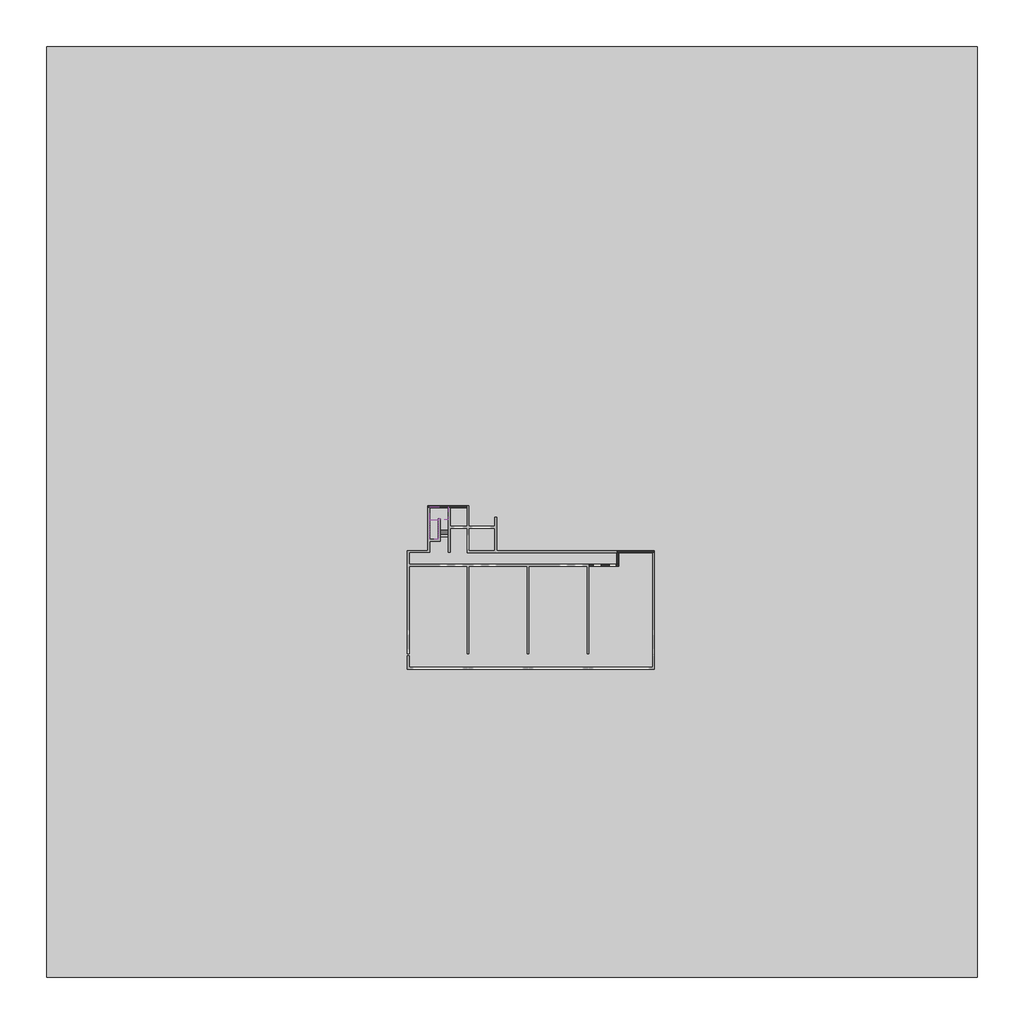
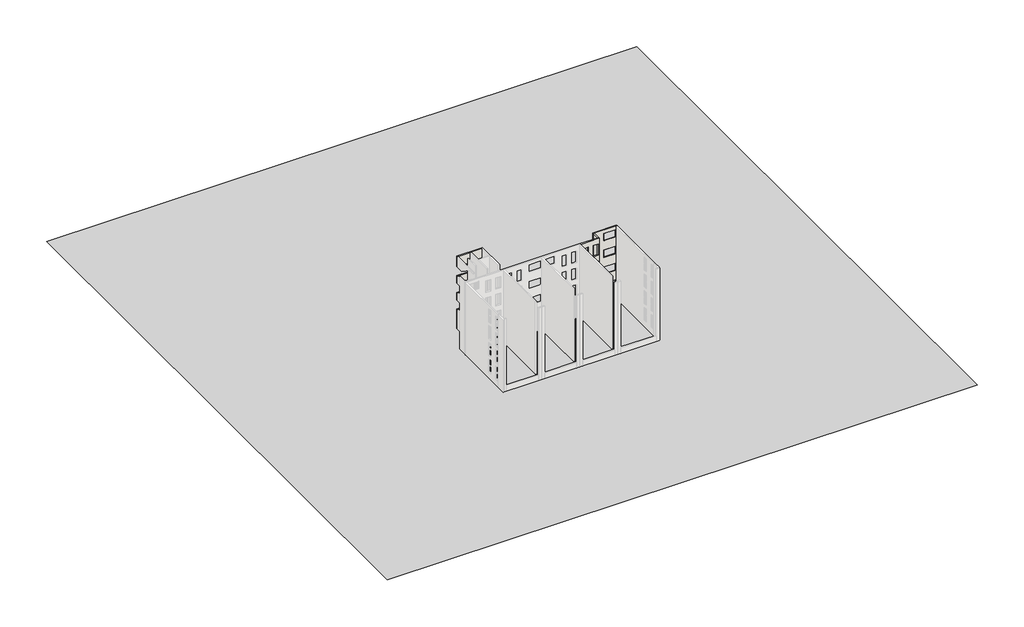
# One storey, part 4 of 4: 4 walls, 2 stair flights, 1 proxy, 1 slab.
"""IFC4 building model written with IfcOpenShell, lengths in millimetres."""

from ifc_helpers import new_model, si_unit, frame, origin, place, context, project, spatial, polyline, outline, extrude, faceted_brep, triangles, element, save

model = new_model("IFC4")

# Units and contexts
model_context = context("Model", 3, world=origin())
ifc_project = project(units=[si_unit("LENGTHUNIT", "METRE", prefix="MILLI")], contexts=[model_context])

# Site, building, storey
site = spatial("IfcSite", under=ifc_project)
building = spatial("IfcBuilding", under=site)
storey = spatial("IfcBuildingStorey", under=building, Name="設計GL", Elevation=0.0)

# Proxy
placement = place(None, origin())
element("IfcBuildingElementProxy", 1, Name="Building Element Proxy", at=placement, inside=storey, context=model_context, shape_type="Tessellation", body=[
    triangles([(-49999.9992188, 49999.9992188, 0.0), (49999.9992188, 49999.9992188, 0.0), (49999.9992188, -49999.9992188, 0.0), (-49999.9992188, -49999.9992188, 0.0)], [[1, 4, 3], [3, 2, 1]], closed=False),
])

# Slab
element("IfcSlab", 2, ObjectType="150 mm 厚さ", at=placement, inside=storey, context=model_context, shape_type="SolidModel", body=[
    faceted_brep([(-7728.7187246, -810.1171638, 2331.7647059), (-6828.7187246, -810.1171638, 2331.7647059), (-6828.7187246, -504.0198032, 2331.7647059), (-6828.7187246, 539.8828362, 2331.7647059), (-8828.7187246, 539.8828362, 2331.7647059), (-8828.7187246, -840.1171638, 2331.7647059), (-8828.7187246, -870.1171638, 2331.7647059), (-7928.7187246, -870.1171638, 2331.7647059), (-7928.7187246, -840.1171638, 2331.7647059), (-7928.7187246, -750.1171638, 2331.7647059), (-7728.7187246, -750.1171638, 2331.7647059), (-7728.7187246, -750.1171638, 2181.7647059), (-7728.7187246, -504.0198032, 2181.7647059), (-7728.7187246, -810.1171638, 1974.0063164), (-7728.7187246, -810.1171638, 2155.2941176), (-6828.7187246, -810.1171638, 2155.2941176), (-6828.7187246, -810.1171638, 1974.0063164), (-6828.7187246, -504.0198032, 2181.7647059), (-6828.7187246, 539.8828362, 2181.7647059), (-8828.7187246, -840.1171638, 2181.7647059), (-8828.7187246, -870.1171638, 2181.7647059), (-7928.7187246, -870.1171638, 2181.7647059), (-7928.7187246, -840.1171638, 2181.7647059), (-7928.7187246, -750.1171638, 2181.7647059), (-8828.7187246, 539.8828362, 2181.7647059)], [[[0, 1, 2, 3, 4, 5, 6, 7, 8, 9, 10]], [[0, 10, 11, 12, 13, 14]], [[1, 15, 16, 17, 18, 3, 2]], [[6, 5, 19, 20]], [[8, 7, 21, 22]], [[9, 8, 22, 23]], [[17, 12, 11, 23, 22, 21, 20, 19, 24, 18]], [[13, 12, 17, 16]], [[4, 3, 18, 24]], [[10, 9, 23, 11]], [[1, 0, 14, 13, 16, 15]], [[5, 4, 24, 19]], [[7, 6, 20, 21]]]),
    extrude(outline(polyline([(-7728.7187246, -840.1171638), (-7728.7187246, -750.1171638), (-7928.7187246, -750.1171638), (-7928.7187246, -840.1171638), (-7928.7187246, -870.1171638), (-8828.7187246, -870.1171638), (-8828.7187246, -840.1171638), (-8828.7187246, 539.8828362), (-6828.7187246, 539.8828362), (-6828.7187246, -840.1171638), (-7728.7187246, -840.1171638)])), frame((0.0, 0.0, 2331.7647059), z_axis=(0.0, 0.0, 1.0), x_axis=(1.0, 0.0, 0.0)), (0.0, 0.0, 1.0), 30.0),
])

# Stair flights
element("IfcStairFlight", 3, ObjectType="30 mm 踏み板 30 mm 蹴込み板", at=placement, inside=storey, context=model_context, shape_type="SolidModel", body=[
    faceted_brep([(-7728.7187246, -2370.1171638, 1096.4705882), (-7728.7187246, -2630.1171638, 1096.4705882), (-6828.7187246, -2630.1171638, 1096.4705882), (-6828.7187246, -2370.1171638, 1096.4705882), (-7728.7187246, -2370.1171638, 950.0), (-7728.7187246, -2630.1171638, 950.0), (-6828.7187246, -2630.1171638, 950.0), (-6828.7187246, -2370.1171638, 950.0), (-7728.7187246, -2110.1171638, 1272.9411765), (-7728.7187246, -2370.1171638, 1272.9411765), (-6828.7187246, -2370.1171638, 1272.9411765), (-6828.7187246, -2110.1171638, 1272.9411765), (-7728.7187246, -2110.1171638, 1091.6533752), (-7728.7187246, -2318.8198032, 950.0), (-6828.7187246, -2318.8198032, 950.0), (-6828.7187246, -2110.1171638, 1091.6533752), (-7728.7187246, -1850.1171638, 1449.4117647), (-7728.7187246, -2110.1171638, 1449.4117647), (-6828.7187246, -2110.1171638, 1449.4117647), (-6828.7187246, -1850.1171638, 1449.4117647), (-7728.7187246, -1850.1171638, 1268.1239634), (-6828.7187246, -1850.1171638, 1268.1239634), (-7728.7187246, -1590.1171638, 1625.8823529), (-7728.7187246, -1850.1171638, 1625.8823529), (-6828.7187246, -1850.1171638, 1625.8823529), (-6828.7187246, -1590.1171638, 1625.8823529), (-7728.7187246, -1590.1171638, 1444.5945517), (-6828.7187246, -1590.1171638, 1444.5945517), (-7728.7187246, -1330.1171638, 1802.3529412), (-7728.7187246, -1590.1171638, 1802.3529412), (-6828.7187246, -1590.1171638, 1802.3529412), (-6828.7187246, -1330.1171638, 1802.3529412), (-7728.7187246, -1330.1171638, 1621.0651399), (-6828.7187246, -1330.1171638, 1621.0651399), (-7728.7187246, -1070.1171638, 1978.8235294), (-7728.7187246, -1330.1171638, 1978.8235294), (-6828.7187246, -1330.1171638, 1978.8235294), (-6828.7187246, -1070.1171638, 1978.8235294), (-7728.7187246, -1070.1171638, 1797.5357281), (-6828.7187246, -1070.1171638, 1797.5357281), (-7728.7187246, -810.1171638, 2155.2941176), (-7728.7187246, -840.1171638, 2155.2941176), (-7728.7187246, -1070.1171638, 2155.2941176), (-6828.7187246, -1070.1171638, 2155.2941176), (-6828.7187246, -840.1171638, 2155.2941176), (-6828.7187246, -810.1171638, 2155.2941176), (-7728.7187246, -810.1171638, 1974.0063164), (-7728.7187246, -840.1171638, 1953.6443254), (-6828.7187246, -840.1171638, 1953.6443254), (-6828.7187246, -810.1171638, 1974.0063164)], [[[0, 1, 2, 3]], [[1, 0, 4, 5]], [[2, 1, 5, 6]], [[3, 2, 6, 7]], [[8, 9, 10, 11]], [[4, 0, 9, 8, 12, 13]], [[0, 3, 10, 9]], [[3, 7, 14, 15, 11, 10]], [[16, 17, 18, 19]], [[17, 16, 20, 12, 8]], [[8, 11, 18, 17]], [[19, 18, 11, 15, 21]], [[22, 23, 24, 25]], [[23, 22, 26, 20, 16]], [[16, 19, 24, 23]], [[25, 24, 19, 21, 27]], [[28, 29, 30, 31]], [[29, 28, 32, 26, 22]], [[22, 25, 30, 29]], [[31, 30, 25, 27, 33]], [[34, 35, 36, 37]], [[35, 34, 38, 32, 28]], [[28, 31, 36, 35]], [[37, 36, 31, 33, 39]], [[40, 41, 42, 43, 44, 45]], [[41, 40, 46, 47]], [[34, 37, 43, 42]], [[44, 43, 37, 39, 48]], [[40, 45, 49, 46]], [[5, 4, 13, 14, 7, 6]], [[14, 13, 12, 20, 26, 32, 38, 47, 46, 49, 48, 39, 33, 27, 21, 15]], [[45, 44, 48, 49]], [[42, 41, 47, 38, 34]]]),
    extrude(outline(polyline([(-7728.7187246, -2370.1171638), (-6828.7187246, -2370.1171638), (-6828.7187246, -2660.1171638), (-7728.7187246, -2660.1171638), (-7728.7187246, -2370.1171638)])), frame((0.0, 0.0, 1096.4705882), z_axis=(0.0, 0.0, 1.0), x_axis=(1.0, 0.0, 0.0)), (0.0, 0.0, 1.0), 30.0),
    extrude(outline(polyline([(-6828.7187246, -2630.1171638), (-6828.7187246, -2660.1171638), (-7728.7187246, -2660.1171638), (-7728.7187246, -2630.1171638), (-6828.7187246, -2630.1171638)])), frame((0.0, 0.0, 950.0), z_axis=(0.0, 0.0, 1.0), x_axis=(1.0, 0.0, 0.0)), (0.0, 0.0, 1.0), 146.4705882),
    extrude(outline(polyline([(-7728.7187246, -2110.1171638), (-6828.7187246, -2110.1171638), (-6828.7187246, -2400.1171638), (-7728.7187246, -2400.1171638), (-7728.7187246, -2110.1171638)])), frame((0.0, 0.0, 1272.9411765), z_axis=(0.0, 0.0, 1.0), x_axis=(1.0, 0.0, 0.0)), (0.0, 0.0, 1.0), 30.0),
    extrude(outline(polyline([(-6828.7187246, -2370.1171638), (-6828.7187246, -2400.1171638), (-7728.7187246, -2400.1171638), (-7728.7187246, -2370.1171638), (-6828.7187246, -2370.1171638)])), frame((0.0, 0.0, 1126.4705882), z_axis=(0.0, 0.0, 1.0), x_axis=(1.0, 0.0, 0.0)), (0.0, 0.0, 1.0), 146.4705882),
    extrude(outline(polyline([(-7728.7187246, -1850.1171638), (-6828.7187246, -1850.1171638), (-6828.7187246, -2140.1171638), (-7728.7187246, -2140.1171638), (-7728.7187246, -1850.1171638)])), frame((0.0, 0.0, 1449.4117647), z_axis=(0.0, 0.0, 1.0), x_axis=(1.0, 0.0, 0.0)), (0.0, 0.0, 1.0), 30.0),
    extrude(outline(polyline([(-6828.7187246, -2110.1171638), (-6828.7187246, -2140.1171638), (-7728.7187246, -2140.1171638), (-7728.7187246, -2110.1171638), (-6828.7187246, -2110.1171638)])), frame((0.0, 0.0, 1302.9411765), z_axis=(0.0, 0.0, 1.0), x_axis=(1.0, 0.0, 0.0)), (0.0, 0.0, 1.0), 146.4705882),
    extrude(outline(polyline([(-7728.7187246, -1590.1171638), (-6828.7187246, -1590.1171638), (-6828.7187246, -1880.1171638), (-7728.7187246, -1880.1171638), (-7728.7187246, -1590.1171638)])), frame((0.0, 0.0, 1625.8823529), z_axis=(0.0, 0.0, 1.0), x_axis=(1.0, 0.0, 0.0)), (0.0, 0.0, 1.0), 30.0),
    extrude(outline(polyline([(-6828.7187246, -1850.1171638), (-6828.7187246, -1880.1171638), (-7728.7187246, -1880.1171638), (-7728.7187246, -1850.1171638), (-6828.7187246, -1850.1171638)])), frame((0.0, 0.0, 1479.4117647), z_axis=(0.0, 0.0, 1.0), x_axis=(1.0, 0.0, 0.0)), (0.0, 0.0, 1.0), 146.4705882),
    extrude(outline(polyline([(-7728.7187246, -1330.1171638), (-6828.7187246, -1330.1171638), (-6828.7187246, -1620.1171638), (-7728.7187246, -1620.1171638), (-7728.7187246, -1330.1171638)])), frame((0.0, 0.0, 1802.3529412), z_axis=(0.0, 0.0, 1.0), x_axis=(1.0, 0.0, 0.0)), (0.0, 0.0, 1.0), 30.0),
    extrude(outline(polyline([(-6828.7187246, -1590.1171638), (-6828.7187246, -1620.1171638), (-7728.7187246, -1620.1171638), (-7728.7187246, -1590.1171638), (-6828.7187246, -1590.1171638)])), frame((0.0, 0.0, 1655.8823529), z_axis=(0.0, 0.0, 1.0), x_axis=(1.0, 0.0, 0.0)), (0.0, 0.0, 1.0), 146.4705882),
    extrude(outline(polyline([(-7728.7187246, -1070.1171638), (-6828.7187246, -1070.1171638), (-6828.7187246, -1360.1171638), (-7728.7187246, -1360.1171638), (-7728.7187246, -1070.1171638)])), frame((0.0, 0.0, 1978.8235294), z_axis=(0.0, 0.0, 1.0), x_axis=(1.0, 0.0, 0.0)), (0.0, 0.0, 1.0), 30.0),
    extrude(outline(polyline([(-6828.7187246, -1330.1171638), (-6828.7187246, -1360.1171638), (-7728.7187246, -1360.1171638), (-7728.7187246, -1330.1171638), (-6828.7187246, -1330.1171638)])), frame((0.0, 0.0, 1832.3529412), z_axis=(0.0, 0.0, 1.0), x_axis=(1.0, 0.0, 0.0)), (0.0, 0.0, 1.0), 146.4705882),
    extrude(outline(polyline([(-7728.7187246, -810.1171638), (-6828.7187246, -810.1171638), (-6828.7187246, -840.1171638), (-6828.7187246, -1100.1171638), (-7728.7187246, -1100.1171638), (-7728.7187246, -840.1171638), (-7728.7187246, -810.1171638)])), frame((0.0, 0.0, 2155.2941176), z_axis=(0.0, 0.0, 1.0), x_axis=(1.0, 0.0, 0.0)), (0.0, 0.0, 1.0), 30.0),
    extrude(outline(polyline([(-6828.7187246, -1070.1171638), (-6828.7187246, -1100.1171638), (-7728.7187246, -1100.1171638), (-7728.7187246, -1070.1171638), (-6828.7187246, -1070.1171638)])), frame((0.0, 0.0, 2008.8235294), z_axis=(0.0, 0.0, 1.0), x_axis=(1.0, 0.0, 0.0)), (0.0, 0.0, 1.0), 146.4705882),
    extrude(outline(polyline([(-6828.7187246, -810.1171638), (-6828.7187246, -840.1171638), (-7728.7187246, -840.1171638), (-7728.7187246, -810.1171638), (-6828.7187246, -810.1171638)])), frame((0.0, 0.0, 2185.2941176), z_axis=(0.0, 0.0, 1.0), x_axis=(1.0, 0.0, 0.0)), (0.0, 0.0, 1.0), 146.4705882),
])
element("IfcStairFlight", 4, ObjectType="30 mm 踏み板 30 mm 蹴込み板", at=placement, inside=storey, context=model_context, shape_type="SolidModel", body=[
    faceted_brep([(-7928.7187246, -870.1171638, 2508.2352941), (-8828.7187246, -870.1171638, 2508.2352941), (-8828.7187246, -916.2145243, 2508.2352941), (-8828.7187246, -1130.1171638, 2508.2352941), (-7928.7187246, -1130.1171638, 2508.2352941), (-7928.7187246, -916.2145243, 2508.2352941), (-7928.7187246, -1130.1171638, 2326.9474929), (-7928.7187246, -916.2145243, 2181.7647059), (-7928.7187246, -870.1171638, 2181.7647059), (-7928.7187246, -870.1171638, 2331.7647059), (-8828.7187246, -870.1171638, 2181.7647059), (-8828.7187246, -870.1171638, 2331.7647059), (-8828.7187246, -916.2145243, 2181.7647059), (-8828.7187246, -1130.1171638, 2326.9474929), (-7928.7187246, -1390.1171638, 2684.7058824), (-7928.7187246, -1130.1171638, 2684.7058824), (-8828.7187246, -1130.1171638, 2684.7058824), (-8828.7187246, -1390.1171638, 2684.7058824), (-7928.7187246, -1390.1171638, 2503.4180811), (-8828.7187246, -1390.1171638, 2503.4180811), (-7928.7187246, -1650.1171638, 2861.1764706), (-7928.7187246, -1390.1171638, 2861.1764706), (-8828.7187246, -1390.1171638, 2861.1764706), (-8828.7187246, -1650.1171638, 2861.1764706), (-7928.7187246, -1650.1171638, 2679.8886693), (-8828.7187246, -1650.1171638, 2679.8886693), (-7928.7187246, -1910.1171638, 3037.6470588), (-7928.7187246, -1650.1171638, 3037.6470588), (-8828.7187246, -1650.1171638, 3037.6470588), (-8828.7187246, -1910.1171638, 3037.6470588), (-7928.7187246, -1910.1171638, 2856.3592576), (-8828.7187246, -1910.1171638, 2856.3592576), (-7928.7187246, -2170.1171638, 3214.1176471), (-7928.7187246, -1910.1171638, 3214.1176471), (-8828.7187246, -1910.1171638, 3214.1176471), (-8828.7187246, -2170.1171638, 3214.1176471), (-7928.7187246, -2170.1171638, 3032.8298458), (-8828.7187246, -2170.1171638, 3032.8298458), (-7928.7187246, -2430.1171638, 3390.5882353), (-7928.7187246, -2170.1171638, 3390.5882353), (-8828.7187246, -2170.1171638, 3390.5882353), (-8828.7187246, -2430.1171638, 3390.5882353), (-7928.7187246, -2430.1171638, 3209.300434), (-8828.7187246, -2430.1171638, 3209.300434), (-7928.7187246, -2690.1171638, 3567.0588235), (-7928.7187246, -2430.1171638, 3567.0588235), (-8828.7187246, -2430.1171638, 3567.0588235), (-8828.7187246, -2690.1171638, 3567.0588235), (-7928.7187246, -2690.1171638, 3385.7710223), (-8828.7187246, -2690.1171638, 3385.7710223), (-7928.7187246, -2950.1171638, 3743.5294118), (-7928.7187246, -2690.1171638, 3743.5294118), (-8828.7187246, -2690.1171638, 3743.5294118), (-8828.7187246, -2950.1171638, 3743.5294118), (-7928.7187246, -2950.1171638, 3562.2416105), (-8828.7187246, -2950.1171638, 3562.2416105)], [[[0, 1, 2, 3, 4, 5]], [[4, 6, 7, 8, 9, 0, 5]], [[1, 0, 9, 8, 10, 11]], [[1, 11, 10, 12, 13, 3, 2]], [[14, 15, 16, 17]], [[15, 14, 18, 6, 4]], [[16, 15, 4, 3]], [[17, 16, 3, 13, 19]], [[20, 21, 22, 23]], [[21, 20, 24, 18, 14]], [[22, 21, 14, 17]], [[23, 22, 17, 19, 25]], [[26, 27, 28, 29]], [[27, 26, 30, 24, 20]], [[28, 27, 20, 23]], [[29, 28, 23, 25, 31]], [[32, 33, 34, 35]], [[33, 32, 36, 30, 26]], [[34, 33, 26, 29]], [[35, 34, 29, 31, 37]], [[38, 39, 40, 41]], [[39, 38, 42, 36, 32]], [[40, 39, 32, 35]], [[41, 40, 35, 37, 43]], [[44, 45, 46, 47]], [[45, 44, 48, 42, 38]], [[46, 45, 38, 41]], [[47, 46, 41, 43, 49]], [[50, 51, 52, 53]], [[51, 50, 54, 48, 44]], [[52, 51, 44, 47]], [[53, 52, 47, 49, 55]], [[50, 53, 55, 54]], [[12, 7, 6, 18, 24, 30, 36, 42, 48, 54, 55, 49, 43, 37, 31, 25, 19, 13]], [[7, 12, 10, 8]]]),
    extrude(outline(polyline([(-7928.7187246, -1130.1171638), (-8828.7187246, -1130.1171638), (-8828.7187246, -840.1171638), (-7928.7187246, -840.1171638), (-7928.7187246, -1130.1171638)])), frame((0.0, 0.0, 2508.2352941), z_axis=(0.0, 0.0, 1.0), x_axis=(1.0, 0.0, 0.0)), (0.0, 0.0, 1.0), 30.0),
    extrude(outline(polyline([(-8828.7187246, -870.1171638), (-8828.7187246, -840.1171638), (-7928.7187246, -840.1171638), (-7928.7187246, -870.1171638), (-8828.7187246, -870.1171638)])), frame((0.0, 0.0, 2361.7647059), z_axis=(0.0, 0.0, 1.0), x_axis=(1.0, 0.0, 0.0)), (0.0, 0.0, 1.0), 146.4705882),
    extrude(outline(polyline([(-7928.7187246, -1390.1171638), (-8828.7187246, -1390.1171638), (-8828.7187246, -1100.1171638), (-7928.7187246, -1100.1171638), (-7928.7187246, -1390.1171638)])), frame((0.0, 0.0, 2684.7058824), z_axis=(0.0, 0.0, 1.0), x_axis=(1.0, 0.0, 0.0)), (0.0, 0.0, 1.0), 30.0),
    extrude(outline(polyline([(-8828.7187246, -1130.1171638), (-8828.7187246, -1100.1171638), (-7928.7187246, -1100.1171638), (-7928.7187246, -1130.1171638), (-8828.7187246, -1130.1171638)])), frame((0.0, 0.0, 2538.2352941), z_axis=(0.0, 0.0, 1.0), x_axis=(1.0, 0.0, 0.0)), (0.0, 0.0, 1.0), 146.4705882),
    extrude(outline(polyline([(-7928.7187246, -1650.1171638), (-8828.7187246, -1650.1171638), (-8828.7187246, -1360.1171638), (-7928.7187246, -1360.1171638), (-7928.7187246, -1650.1171638)])), frame((0.0, 0.0, 2861.1764706), z_axis=(0.0, 0.0, 1.0), x_axis=(1.0, 0.0, 0.0)), (0.0, 0.0, 1.0), 30.0),
    extrude(outline(polyline([(-8828.7187246, -1390.1171638), (-8828.7187246, -1360.1171638), (-7928.7187246, -1360.1171638), (-7928.7187246, -1390.1171638), (-8828.7187246, -1390.1171638)])), frame((0.0, 0.0, 2714.7058824), z_axis=(0.0, 0.0, 1.0), x_axis=(1.0, 0.0, 0.0)), (0.0, 0.0, 1.0), 146.4705882),
    extrude(outline(polyline([(-7928.7187246, -1910.1171638), (-8828.7187246, -1910.1171638), (-8828.7187246, -1620.1171638), (-7928.7187246, -1620.1171638), (-7928.7187246, -1910.1171638)])), frame((0.0, 0.0, 3037.6470588), z_axis=(0.0, 0.0, 1.0), x_axis=(1.0, 0.0, 0.0)), (0.0, 0.0, 1.0), 30.0),
    extrude(outline(polyline([(-8828.7187246, -1650.1171638), (-8828.7187246, -1620.1171638), (-7928.7187246, -1620.1171638), (-7928.7187246, -1650.1171638), (-8828.7187246, -1650.1171638)])), frame((0.0, 0.0, 2891.1764706), z_axis=(0.0, 0.0, 1.0), x_axis=(1.0, 0.0, 0.0)), (0.0, 0.0, 1.0), 146.4705882),
    extrude(outline(polyline([(-7928.7187246, -2170.1171638), (-8828.7187246, -2170.1171638), (-8828.7187246, -1880.1171638), (-7928.7187246, -1880.1171638), (-7928.7187246, -2170.1171638)])), frame((0.0, 0.0, 3214.1176471), z_axis=(0.0, 0.0, 1.0), x_axis=(1.0, 0.0, 0.0)), (0.0, 0.0, 1.0), 30.0),
    extrude(outline(polyline([(-8828.7187246, -1910.1171638), (-8828.7187246, -1880.1171638), (-7928.7187246, -1880.1171638), (-7928.7187246, -1910.1171638), (-8828.7187246, -1910.1171638)])), frame((0.0, 0.0, 3067.6470588), z_axis=(0.0, 0.0, 1.0), x_axis=(1.0, 0.0, 0.0)), (0.0, 0.0, 1.0), 146.4705882),
    extrude(outline(polyline([(-7928.7187246, -2430.1171638), (-8828.7187246, -2430.1171638), (-8828.7187246, -2140.1171638), (-7928.7187246, -2140.1171638), (-7928.7187246, -2430.1171638)])), frame((0.0, 0.0, 3390.5882353), z_axis=(0.0, 0.0, 1.0), x_axis=(1.0, 0.0, 0.0)), (0.0, 0.0, 1.0), 30.0),
    extrude(outline(polyline([(-8828.7187246, -2170.1171638), (-8828.7187246, -2140.1171638), (-7928.7187246, -2140.1171638), (-7928.7187246, -2170.1171638), (-8828.7187246, -2170.1171638)])), frame((0.0, 0.0, 3244.1176471), z_axis=(0.0, 0.0, 1.0), x_axis=(1.0, 0.0, 0.0)), (0.0, 0.0, 1.0), 146.4705882),
    extrude(outline(polyline([(-7928.7187246, -2690.1171638), (-8828.7187246, -2690.1171638), (-8828.7187246, -2400.1171638), (-7928.7187246, -2400.1171638), (-7928.7187246, -2690.1171638)])), frame((0.0, 0.0, 3567.0588235), z_axis=(0.0, 0.0, 1.0), x_axis=(1.0, 0.0, 0.0)), (0.0, 0.0, 1.0), 30.0),
    extrude(outline(polyline([(-8828.7187246, -2430.1171638), (-8828.7187246, -2400.1171638), (-7928.7187246, -2400.1171638), (-7928.7187246, -2430.1171638), (-8828.7187246, -2430.1171638)])), frame((0.0, 0.0, 3420.5882353), z_axis=(0.0, 0.0, 1.0), x_axis=(1.0, 0.0, 0.0)), (0.0, 0.0, 1.0), 146.4705882),
    extrude(outline(polyline([(-7928.7187246, -2950.1171638), (-8828.7187246, -2950.1171638), (-8828.7187246, -2660.1171638), (-7928.7187246, -2660.1171638), (-7928.7187246, -2950.1171638)])), frame((0.0, 0.0, 3743.5294118), z_axis=(0.0, 0.0, 1.0), x_axis=(1.0, 0.0, 0.0)), (0.0, 0.0, 1.0), 30.0),
    extrude(outline(polyline([(-8828.7187246, -2690.1171638), (-8828.7187246, -2660.1171638), (-7928.7187246, -2660.1171638), (-7928.7187246, -2690.1171638), (-8828.7187246, -2690.1171638)])), frame((0.0, 0.0, 3597.0588235), z_axis=(0.0, 0.0, 1.0), x_axis=(1.0, 0.0, 0.0)), (0.0, 0.0, 1.0), 146.4705882),
    extrude(outline(polyline([(-8828.7187246, -2950.1171638), (-8828.7187246, -2920.1171638), (-7928.7187246, -2920.1171638), (-7928.7187246, -2950.1171638), (-8828.7187246, -2950.1171638)])), frame((0.0, 0.0, 3773.5294118), z_axis=(0.0, 0.0, 1.0), x_axis=(1.0, 0.0, 0.0)), (0.0, 0.0, 1.0), 146.4705882),
])

# Walls
element("IfcWall", 5, ObjectType="外壁(R)RC200", at=placement, inside=storey, context=model_context, shape_type="Brep", body=[
    faceted_brep([(11247.5312754, -4376.3671638, 13000.0), (11247.5312754, -4376.3671638, -1200.0), (11447.5312754, -4376.3671638, -1200.0), (15095.0312754, -4376.3671638, -1200.0), (15295.0312754, -4376.3671638, -1200.0), (15295.0312754, -4376.3671638, 13000.0), (15095.0312754, -4376.3671638, 13000.0), (11447.5312754, -4376.3671638, 13000.0), (15111.2812754, -4376.3671638, 3385.0), (15111.2812754, -4376.3671638, 2115.0), (13031.2812754, -4376.3671638, 2115.0), (13031.2812754, -4376.3671638, 3385.0), (15111.2812754, -4376.3671638, 6385.0), (15111.2812754, -4376.3671638, 5115.0), (13031.2812754, -4376.3671638, 5115.0), (13031.2812754, -4376.3671638, 6385.0), (15111.2812754, -4376.3671638, 9385.0), (15111.2812754, -4376.3671638, 8115.0), (13031.2812754, -4376.3671638, 8115.0), (13031.2812754, -4376.3671638, 9385.0), (15111.2812754, -4376.3671638, 12385.0), (15111.2812754, -4376.3671638, 11115.0), (13031.2812754, -4376.3671638, 11115.0), (13031.2812754, -4376.3671638, 12385.0), (11247.5312754, -4176.3671638, -1200.0), (11247.5312754, -4176.3671638, 2100.0), (11247.5312754, -4176.3671638, 3800.0), (11247.5312754, -4176.3671638, 5100.0), (11247.5312754, -4176.3671638, 6800.0), (11247.5312754, -4176.3671638, 8100.0), (11247.5312754, -4176.3671638, 9800.0), (11247.5312754, -4176.3671638, 11100.0), (11247.5312754, -4176.3671638, 13000.0), (15295.0312754, -4176.3671638, 13000.0), (15295.0312754, -4176.3671638, -1200.0), (13061.2812754, -4176.3671638, 2025.0), (15081.2812754, -4176.3671638, 2025.0), (15081.2812754, -4176.3671638, 3360.0), (13061.2812754, -4176.3671638, 3360.0), (13061.2812754, -4176.3671638, 5025.0), (15081.2812754, -4176.3671638, 5025.0), (15081.2812754, -4176.3671638, 6360.0), (13061.2812754, -4176.3671638, 6360.0), (13061.2812754, -4176.3671638, 8025.0), (15081.2812754, -4176.3671638, 8025.0), (15081.2812754, -4176.3671638, 9360.0), (13061.2812754, -4176.3671638, 9360.0), (13061.2812754, -4176.3671638, 11025.0), (15081.2812754, -4176.3671638, 11025.0), (15081.2812754, -4176.3671638, 12360.0), (13061.2812754, -4176.3671638, 12360.0), (15111.2812754, -4306.3671638, 3385.0), (15111.2812754, -4306.3671638, 2115.0), (13031.2812754, -4306.3671638, 2115.0), (13031.2812754, -4306.3671638, 3385.0), (15101.2812754, -4306.3671638, 2115.0), (13041.2812754, -4306.3671638, 2115.0), (13041.2812754, -4306.3671638, 3380.0), (15101.2812754, -4306.3671638, 3380.0), (15101.2812754, -4236.3671638, 3380.0), (15101.2812754, -4236.3671638, 2034.2307692), (15101.2812754, -4306.3671638, 2045.0), (13041.2812754, -4306.3671638, 2045.0), (13041.2812754, -4236.3671638, 2034.2307692), (13041.2812754, -4236.3671638, 3380.0), (15081.2812754, -4236.3671638, 2034.2307692), (13061.2812754, -4236.3671638, 2034.2307692), (13061.2812754, -4236.3671638, 3360.0), (15081.2812754, -4236.3671638, 3360.0), (15111.2812754, -4306.3671638, 6385.0), (15111.2812754, -4306.3671638, 5115.0), (13031.2812754, -4306.3671638, 5115.0), (13031.2812754, -4306.3671638, 6385.0), (15101.2812754, -4306.3671638, 5115.0), (13041.2812754, -4306.3671638, 5115.0), (13041.2812754, -4306.3671638, 6380.0), (15101.2812754, -4306.3671638, 6380.0), (15101.2812754, -4236.3671638, 6380.0), (15101.2812754, -4236.3671638, 5034.2307692), (15101.2812754, -4306.3671638, 5045.0), (13041.2812754, -4306.3671638, 5045.0), (13041.2812754, -4236.3671638, 5034.2307692), (13041.2812754, -4236.3671638, 6380.0), (15081.2812754, -4236.3671638, 5034.2307692), (13061.2812754, -4236.3671638, 5034.2307692), (13061.2812754, -4236.3671638, 6360.0), (15081.2812754, -4236.3671638, 6360.0), (15111.2812754, -4306.3671638, 9385.0), (15111.2812754, -4306.3671638, 8115.0), (13031.2812754, -4306.3671638, 8115.0), (13031.2812754, -4306.3671638, 9385.0), (15101.2812754, -4306.3671638, 8115.0), (13041.2812754, -4306.3671638, 8115.0), (13041.2812754, -4306.3671638, 9380.0), (15101.2812754, -4306.3671638, 9380.0), (15101.2812754, -4236.3671638, 9380.0), (15101.2812754, -4236.3671638, 8034.2307692), (15101.2812754, -4306.3671638, 8045.0), (13041.2812754, -4306.3671638, 8045.0), (13041.2812754, -4236.3671638, 8034.2307692), (13041.2812754, -4236.3671638, 9380.0), (15081.2812754, -4236.3671638, 8034.2307692), (13061.2812754, -4236.3671638, 8034.2307692), (13061.2812754, -4236.3671638, 9360.0), (15081.2812754, -4236.3671638, 9360.0), (15111.2812754, -4306.3671638, 12385.0), (15111.2812754, -4306.3671638, 11115.0), (13031.2812754, -4306.3671638, 11115.0), (13031.2812754, -4306.3671638, 12385.0), (15101.2812754, -4306.3671638, 11115.0), (13041.2812754, -4306.3671638, 11115.0), (13041.2812754, -4306.3671638, 12380.0), (15101.2812754, -4306.3671638, 12380.0), (15101.2812754, -4236.3671638, 12380.0), (15101.2812754, -4236.3671638, 11034.2307692), (15101.2812754, -4306.3671638, 11045.0), (13041.2812754, -4306.3671638, 11045.0), (13041.2812754, -4236.3671638, 11034.2307692), (13041.2812754, -4236.3671638, 12380.0), (15081.2812754, -4236.3671638, 11034.2307692), (13061.2812754, -4236.3671638, 11034.2307692), (13061.2812754, -4236.3671638, 12360.0), (15081.2812754, -4236.3671638, 12360.0)], [[[0, 1, 2, 3, 4, 5, 6, 7], [8, 9, 10, 11], [12, 13, 14, 15], [16, 17, 18, 19], [20, 21, 22, 23]], [[24, 25, 26, 27, 28, 29, 30, 31, 32, 33, 34], [35, 36, 37, 38], [39, 40, 41, 42], [43, 44, 45, 46], [47, 48, 49, 50]], [[4, 3, 2, 1, 24, 34]], [[0, 7, 6, 5, 33, 32]], [[5, 4, 34, 33]], [[51, 52, 9, 8]], [[53, 54, 11, 10]], [[9, 52, 55, 56, 53, 10]], [[52, 51, 54, 53, 56, 57, 58, 55]], [[54, 51, 8, 11]], [[58, 59, 60, 61, 55]], [[62, 63, 64, 57, 56]], [[61, 60, 65, 36, 35, 66, 63, 62]], [[60, 59, 64, 63, 66, 67, 68, 65]], [[59, 58, 57, 64]], [[61, 62, 56, 55]], [[68, 37, 36, 65]], [[66, 35, 38, 67]], [[37, 68, 67, 38]], [[69, 70, 13, 12]], [[71, 72, 15, 14]], [[13, 70, 73, 74, 71, 14]], [[70, 69, 72, 71, 74, 75, 76, 73]], [[72, 69, 12, 15]], [[76, 77, 78, 79, 73]], [[80, 81, 82, 75, 74]], [[79, 78, 83, 40, 39, 84, 81, 80]], [[78, 77, 82, 81, 84, 85, 86, 83]], [[77, 76, 75, 82]], [[79, 80, 74, 73]], [[86, 41, 40, 83]], [[84, 39, 42, 85]], [[41, 86, 85, 42]], [[87, 88, 17, 16]], [[89, 90, 19, 18]], [[17, 88, 91, 92, 89, 18]], [[88, 87, 90, 89, 92, 93, 94, 91]], [[90, 87, 16, 19]], [[94, 95, 96, 97, 91]], [[98, 99, 100, 93, 92]], [[97, 96, 101, 44, 43, 102, 99, 98]], [[96, 95, 100, 99, 102, 103, 104, 101]], [[95, 94, 93, 100]], [[97, 98, 92, 91]], [[104, 45, 44, 101]], [[102, 43, 46, 103]], [[45, 104, 103, 46]], [[105, 106, 21, 20]], [[107, 108, 23, 22]], [[21, 106, 109, 110, 107, 22]], [[106, 105, 108, 107, 110, 111, 112, 109]], [[108, 105, 20, 23]], [[112, 113, 114, 115, 109]], [[116, 117, 118, 111, 110]], [[115, 114, 119, 48, 47, 120, 117, 116]], [[114, 113, 118, 117, 120, 121, 122, 119]], [[113, 112, 111, 118]], [[115, 116, 110, 109]], [[122, 49, 48, 119]], [[120, 47, 50, 121]], [[49, 122, 121, 50]], [[0, 32, 31, 30, 29, 28, 27, 26, 25, 24, 1]]]),
])
element("IfcWall", 6, ObjectType="外壁(R)RC200", at=placement, inside=storey, context=model_context, shape_type="Brep", body=[
    faceted_brep([(8271.2812754, -5826.3671638, -1200.0), (11447.5312754, -5826.3671638, -1200.0), (11447.5312754, -5826.3671638, 13000.0), (8271.2812754, -5826.3671638, 13000.0), (9591.2812754, -5826.3671638, 3020.0), (9591.2812754, -5826.3671638, 1000.0), (8751.2812754, -5826.3671638, 1000.0), (8751.2812754, -5826.3671638, 3020.0), (10421.2812754, -5826.3671638, 1000.0), (10421.2812754, -5826.3671638, 3000.0), (11221.2812754, -5826.3671638, 3000.0), (11221.2812754, -5826.3671638, 1000.0), (10421.2812754, -5826.3671638, 4000.0), (10421.2812754, -5826.3671638, 6000.0), (11221.2812754, -5826.3671638, 6000.0), (11221.2812754, -5826.3671638, 4000.0), (9591.2812754, -5826.3671638, 6020.0), (9591.2812754, -5826.3671638, 4000.0), (8751.2812754, -5826.3671638, 4000.0), (8751.2812754, -5826.3671638, 6020.0), (10421.2812754, -5826.3671638, 7000.0), (10421.2812754, -5826.3671638, 9000.0), (11221.2812754, -5826.3671638, 9000.0), (11221.2812754, -5826.3671638, 7000.0), (9591.2812754, -5826.3671638, 9020.0), (9591.2812754, -5826.3671638, 7000.0), (8751.2812754, -5826.3671638, 7000.0), (8751.2812754, -5826.3671638, 9020.0), (10421.2812754, -5826.3671638, 10000.0), (10421.2812754, -5826.3671638, 12000.0), (11221.2812754, -5826.3671638, 12000.0), (11221.2812754, -5826.3671638, 10000.0), (9591.2812754, -5826.3671638, 12020.0), (9591.2812754, -5826.3671638, 10000.0), (8751.2812754, -5826.3671638, 10000.0), (8751.2812754, -5826.3671638, 12020.0), (8271.2812754, -5626.3671638, -1200.0), (8271.2812754, -5626.3671638, 13000.0), (11247.5312754, -5626.3671638, 13000.0), (11447.5312754, -5626.3671638, 13000.0), (11447.5312754, -5626.3671638, -1200.0), (11247.5312754, -5626.3671638, -1200.0), (9591.2812754, -5626.3671638, 3020.0), (8751.2812754, -5626.3671638, 3020.0), (8751.2812754, -5626.3671638, 1000.0), (9591.2812754, -5626.3671638, 1000.0), (10421.2812754, -5626.3671638, 1000.0), (11221.2812754, -5626.3671638, 1000.0), (11221.2812754, -5626.3671638, 3000.0), (10421.2812754, -5626.3671638, 3000.0), (10421.2812754, -5626.3671638, 4000.0), (11221.2812754, -5626.3671638, 4000.0), (11221.2812754, -5626.3671638, 6000.0), (10421.2812754, -5626.3671638, 6000.0), (9591.2812754, -5626.3671638, 6020.0), (8751.2812754, -5626.3671638, 6020.0), (8751.2812754, -5626.3671638, 4000.0), (9591.2812754, -5626.3671638, 4000.0), (10421.2812754, -5626.3671638, 7000.0), (11221.2812754, -5626.3671638, 7000.0), (11221.2812754, -5626.3671638, 9000.0), (10421.2812754, -5626.3671638, 9000.0), (9591.2812754, -5626.3671638, 9020.0), (8751.2812754, -5626.3671638, 9020.0), (8751.2812754, -5626.3671638, 7000.0), (9591.2812754, -5626.3671638, 7000.0), (10421.2812754, -5626.3671638, 10000.0), (11221.2812754, -5626.3671638, 10000.0), (11221.2812754, -5626.3671638, 12000.0), (10421.2812754, -5626.3671638, 12000.0), (9591.2812754, -5626.3671638, 12020.0), (8751.2812754, -5626.3671638, 12020.0), (8751.2812754, -5626.3671638, 10000.0), (9591.2812754, -5626.3671638, 10000.0)], [[[0, 1, 2, 3], [4, 5, 6, 7], [8, 9, 10, 11], [12, 13, 14, 15], [16, 17, 18, 19], [20, 21, 22, 23], [24, 25, 26, 27], [28, 29, 30, 31], [32, 33, 34, 35]], [[36, 37, 38, 39, 40, 41], [42, 43, 44, 45], [46, 47, 48, 49], [50, 51, 52, 53], [54, 55, 56, 57], [58, 59, 60, 61], [62, 63, 64, 65], [66, 67, 68, 69], [70, 71, 72, 73]], [[1, 0, 36, 41, 40]], [[3, 2, 39, 38, 37]], [[0, 3, 37, 36]], [[5, 4, 42, 45]], [[6, 5, 45, 44]], [[7, 6, 44, 43]], [[4, 7, 43, 42]], [[9, 8, 46, 49]], [[10, 9, 49, 48]], [[11, 10, 48, 47]], [[8, 11, 47, 46]], [[13, 12, 50, 53]], [[14, 13, 53, 52]], [[15, 14, 52, 51]], [[12, 15, 51, 50]], [[17, 16, 54, 57]], [[18, 17, 57, 56]], [[19, 18, 56, 55]], [[16, 19, 55, 54]], [[21, 20, 58, 61]], [[22, 21, 61, 60]], [[23, 22, 60, 59]], [[20, 23, 59, 58]], [[25, 24, 62, 65]], [[26, 25, 65, 64]], [[27, 26, 64, 63]], [[24, 27, 63, 62]], [[29, 28, 66, 69]], [[30, 29, 69, 68]], [[31, 30, 68, 67]], [[28, 31, 67, 66]], [[33, 32, 70, 73]], [[34, 33, 73, 72]], [[35, 34, 72, 71]], [[32, 35, 71, 70]], [[1, 40, 39, 2]]]),
])
element("IfcWall", 7, ObjectType="外壁(R)RC200", at=placement, inside=storey, context=model_context, shape_type="SweptSolid", body=[
    extrude(outline(polyline([(11447.5312754, -4376.3671638), (11447.5312754, -5626.3671638), (11247.5312754, -5626.3671638), (11247.5312754, -4376.3671638), (11447.5312754, -4376.3671638)])), frame((0.0, 0.0, -1200.0), z_axis=(0.0, 0.0, 1.0), x_axis=(1.0, 0.0, 0.0)), (0.0, 0.0, 1.0), 14200.0),
])
element("IfcWall", 8, ObjectType="(R)RC200", at=placement, inside=storey, context=model_context, shape_type="Brep", body=[
    faceted_brep([(-4828.7187246, 649.8828362, -1200.0), (-9028.7187246, 649.8828362, -1200.0), (-9028.7187246, 649.8828362, 3500.0), (-6828.7187246, 649.8828362, 3500.0), (-6828.7187246, 649.8828362, 5181.7647059), (-9028.7187246, 649.8828362, 5181.7647059), (-9028.7187246, 649.8828362, 6500.0), (-6828.7187246, 649.8828362, 6500.0), (-6828.7187246, 649.8828362, 8181.7647059), (-9028.7187246, 649.8828362, 8181.7647059), (-9028.7187246, 649.8828362, 9500.0), (-6828.7187246, 649.8828362, 9500.0), (-6828.7187246, 649.8828362, 11181.7647059), (-9028.7187246, 649.8828362, 11181.7647059), (-9028.7187246, 649.8828362, 13000.0), (-4828.7187246, 649.8828362, 13000.0), (-4828.7187246, 449.8828362, -1200.0), (-4828.7187246, 449.8828362, 13000.0), (-6628.7187246, 449.8828362, 13000.0), (-6828.7187246, 449.8828362, 13000.0), (-8828.7187246, 449.8828362, 13000.0), (-9028.7187246, 449.8828362, 13000.0), (-9028.7187246, 449.8828362, 11181.7647059), (-8828.7187246, 449.8828362, 11181.7647059), (-6828.7187246, 449.8828362, 11181.7647059), (-6828.7187246, 449.8828362, 9500.0), (-8828.7187246, 449.8828362, 9500.0), (-9028.7187246, 449.8828362, 9500.0), (-9028.7187246, 449.8828362, 8181.7647059), (-8828.7187246, 449.8828362, 8181.7647059), (-6828.7187246, 449.8828362, 8181.7647059), (-6828.7187246, 449.8828362, 6500.0), (-8828.7187246, 449.8828362, 6500.0), (-9028.7187246, 449.8828362, 6500.0), (-9028.7187246, 449.8828362, 5181.7647059), (-8828.7187246, 449.8828362, 5181.7647059), (-6828.7187246, 449.8828362, 5181.7647059), (-6828.7187246, 449.8828362, 3500.0), (-8828.7187246, 449.8828362, 3500.0), (-9028.7187246, 449.8828362, 3500.0), (-9028.7187246, 449.8828362, -1200.0), (-8828.7187246, 449.8828362, -1200.0), (-6828.7187246, 449.8828362, -1200.0), (-6628.7187246, 449.8828362, -1200.0)], [[[0, 1, 2, 3, 4, 5, 6, 7, 8, 9, 10, 11, 12, 13, 14, 15]], [[16, 17, 18, 19, 20, 21, 22, 23, 24, 25, 26, 27, 28, 29, 30, 31, 32, 33, 34, 35, 36, 37, 38, 39, 40, 41, 42, 43]], [[0, 15, 17, 16]], [[2, 1, 40, 39]], [[1, 0, 16, 43, 42, 41, 40]], [[15, 14, 21, 20, 19, 18, 17]], [[3, 2, 39, 38, 37]], [[4, 3, 37, 36]], [[5, 4, 36, 35, 34]], [[7, 6, 33, 32, 31]], [[8, 7, 31, 30]], [[9, 8, 30, 29, 28]], [[11, 10, 27, 26, 25]], [[12, 11, 25, 24]], [[13, 12, 24, 23, 22]], [[6, 5, 34, 33]], [[10, 9, 28, 27]], [[14, 13, 22, 21]]]),
])

save(model, "model.ifc")
